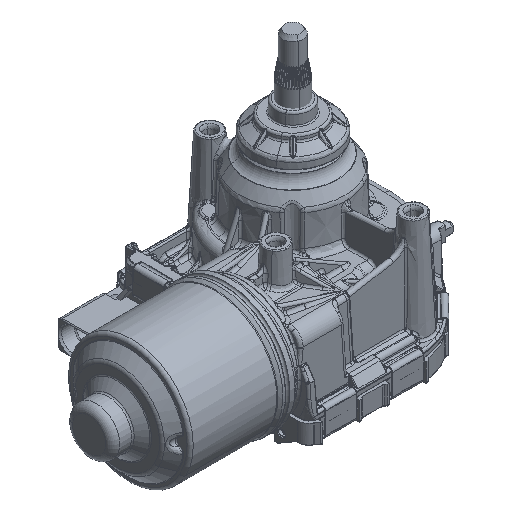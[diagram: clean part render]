
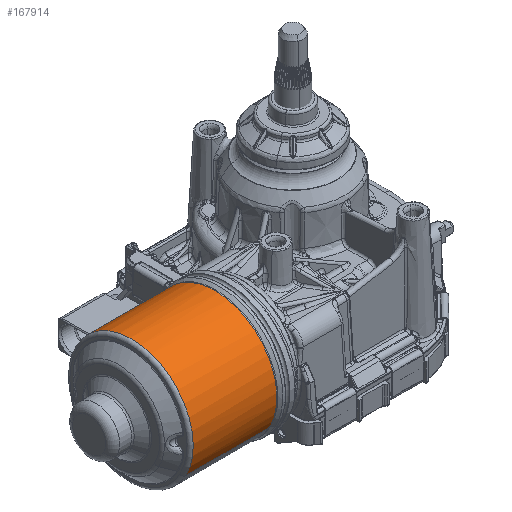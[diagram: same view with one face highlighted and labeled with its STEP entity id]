
A CAD part, isometric view. The second image highlights one B-rep face of the part: STEP entity #167914.
In plain terms, the highlighted cylindrical face has radius 29.9 mm (diameter 59.8 mm), a partial arc.
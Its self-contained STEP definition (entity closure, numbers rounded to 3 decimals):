
#167901=AXIS2_PLACEMENT_3D('Cylinder Axis2P3D',#167898,#167899,#167900) ;
#167905=AXIS2_PLACEMENT_3D('Circle Axis2P3D',#167903,#167904,$) ;
#159598=CARTESIAN_POINT('Vertex',(-72.4,26.24,14.335)) ;
#159605=CARTESIAN_POINT('Vertex',(-72.4,-26.24,-14.335)) ;
#159626=CARTESIAN_POINT('Control Point',(-72.4,26.24,14.335)) ;
#159627=CARTESIAN_POINT('Control Point',(-72.4,23.988,18.457)) ;
#159628=CARTESIAN_POINT('Control Point',(-72.4,20.927,22.136)) ;
#159629=CARTESIAN_POINT('Control Point',(-72.4,17.172,25.161)) ;
#159630=CARTESIAN_POINT('Control Point',(-72.4,8.678,29.575)) ;
#159631=CARTESIAN_POINT('Control Point',(-72.4,-0.855,30.45)) ;
#159632=CARTESIAN_POINT('Control Point',(-72.4,-5.649,29.934)) ;
#159633=CARTESIAN_POINT('Control Point',(-72.4,-14.777,27.049)) ;
#159634=CARTESIAN_POINT('Control Point',(-72.4,-22.136,20.927)) ;
#159635=CARTESIAN_POINT('Control Point',(-72.4,-25.161,17.172)) ;
#159636=CARTESIAN_POINT('Control Point',(-72.4,-29.575,8.678)) ;
#159637=CARTESIAN_POINT('Control Point',(-72.4,-30.45,-0.855)) ;
#159638=CARTESIAN_POINT('Control Point',(-72.4,-29.934,-5.649)) ;
#159639=CARTESIAN_POINT('Control Point',(-72.4,-28.491,-10.213)) ;
#159640=CARTESIAN_POINT('Control Point',(-72.4,-26.24,-14.335)) ;
#167864=CARTESIAN_POINT('Line Origine',(-102.9,26.24,14.335)) ;
#167868=CARTESIAN_POINT('Vertex',(-112.9,26.24,14.335)) ;
#167871=CARTESIAN_POINT('Line Origine',(-102.9,-26.24,-14.335)) ;
#167875=CARTESIAN_POINT('Vertex',(-112.9,-26.24,-14.335)) ;
#167898=CARTESIAN_POINT('Axis2P3D Location',(-102.9,0.,0.)) ;
#167903=CARTESIAN_POINT('Axis2P3D Location',(-112.9,0.,0.)) ;
#167865=DIRECTION('Vector Direction',(1.,0.,0.)) ;
#167872=DIRECTION('Vector Direction',(1.,0.,0.)) ;
#167899=DIRECTION('Axis2P3D Direction',(1.,0.,0.)) ;
#167900=DIRECTION('Axis2P3D XDirection',(0.,0.878,0.479)) ;
#167904=DIRECTION('Axis2P3D Direction',(1.,0.,0.)) ;
#167866=VECTOR('Line Direction',#167865,1.) ;
#167873=VECTOR('Line Direction',#167872,1.) ;
#167909=ORIENTED_EDGE('',*,*,#167877,.T.) ;
#167910=ORIENTED_EDGE('',*,*,#159641,.F.) ;
#167911=ORIENTED_EDGE('',*,*,#167870,.F.) ;
#167912=ORIENTED_EDGE('',*,*,#167907,.T.) ;
#167914=ADVANCED_FACE('CEP2M_WDA_61_GLLI_AMP_86.1',(#167913),#167902,.T.) ;
#159625=B_SPLINE_CURVE_WITH_KNOTS('',5,(#159626,#159627,#159628,#159629,#159630,#159631,#159632,#159633,#159634,#159635,#159636,#159637,#159638,#159639,#159640),.UNSPECIFIED.,.F.,.U.,(6,3,3,3,6),(-46.967,-23.483,0.,23.483,46.967),.UNSPECIFIED.) ;
#167906=CIRCLE('generated circle',#167905,29.9) ;
#167902=CYLINDRICAL_SURFACE('generated cylinder',#167901,29.9) ;
#159641=EDGE_CURVE('',#159599,#159606,#159625,.T.) ;
#167870=EDGE_CURVE('',#167869,#159599,#167867,.T.) ;
#167877=EDGE_CURVE('',#167876,#159606,#167874,.T.) ;
#167907=EDGE_CURVE('',#167869,#167876,#167906,.T.) ;
#167908=EDGE_LOOP('',(#167909,#167910,#167911,#167912)) ;
#167913=FACE_OUTER_BOUND('',#167908,.T.) ;
#167867=LINE('Line',#167864,#167866) ;
#167874=LINE('Line',#167871,#167873) ;
#159599=VERTEX_POINT('',#159598) ;
#159606=VERTEX_POINT('',#159605) ;
#167869=VERTEX_POINT('',#167868) ;
#167876=VERTEX_POINT('',#167875) ;
